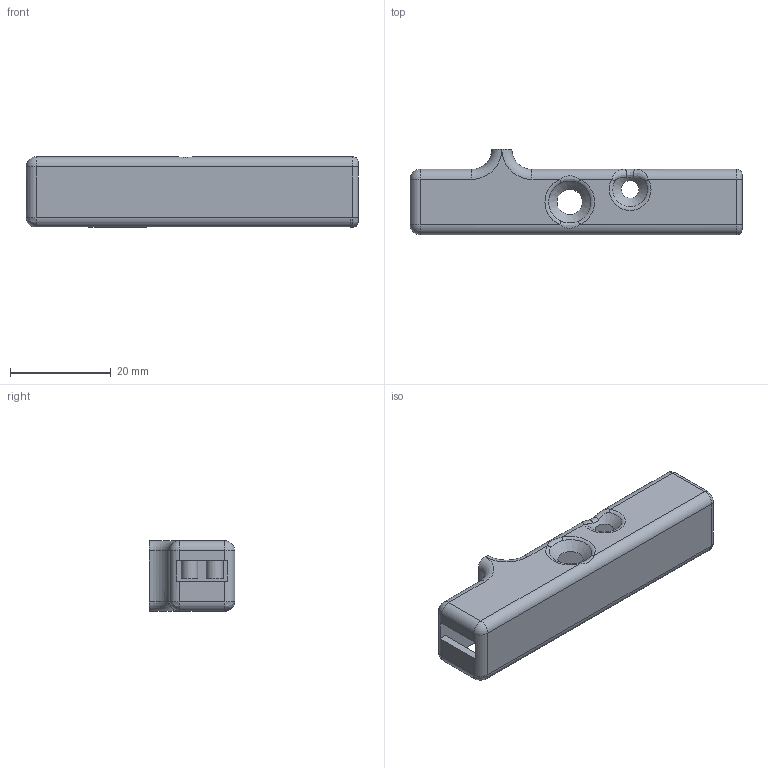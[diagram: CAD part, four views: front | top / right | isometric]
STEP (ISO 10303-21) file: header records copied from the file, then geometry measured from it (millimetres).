
FILE_DESCRIPTION(/* description */ (''),/* implementation_level */ '2;1');
FILE_NAME(/* name */ 'webcam case 2 v3.step',/* time_stamp */ '2025-07-16T17:54:24+08:00',/* author */ (''),/* organization */ (''),/* preprocessor_version */ 'ST-DEVELOPER v20.1',/* originating_system */ 'Autodesk Translation Framework v14.10.0.0',/* authorisation */ '');
FILE_SCHEMA (('AUTOMOTIVE_DESIGN { 1 0 10303 214 3 1 1 }'));
Length unit declared in the file: millimetre
Products named in the file (1): webcam case 2
Bounding box: 66 x 17 x 14 mm (x, y, z)
Volume: 4383.3 mm3; surface area: 5745 mm2
Topology: 1 solids, 1 shells, 84 faces, 205 edges, 124 vertices
Faces by surface type: plane 30, cylinder 27, torus 12, bspline 11, cone 2, sphere 2
Full cylindrical faces by diameter (mm): 1.95 x5, 3.35 x3
Entity records: 2803 total; most frequent: CARTESIAN_POINT 787, DIRECTION 434, ORIENTED_EDGE 410, EDGE_CURVE 205, AXIS2_PLACEMENT_3D 177, VERTEX_POINT 124, CIRCLE 103, EDGE_LOOP 91
